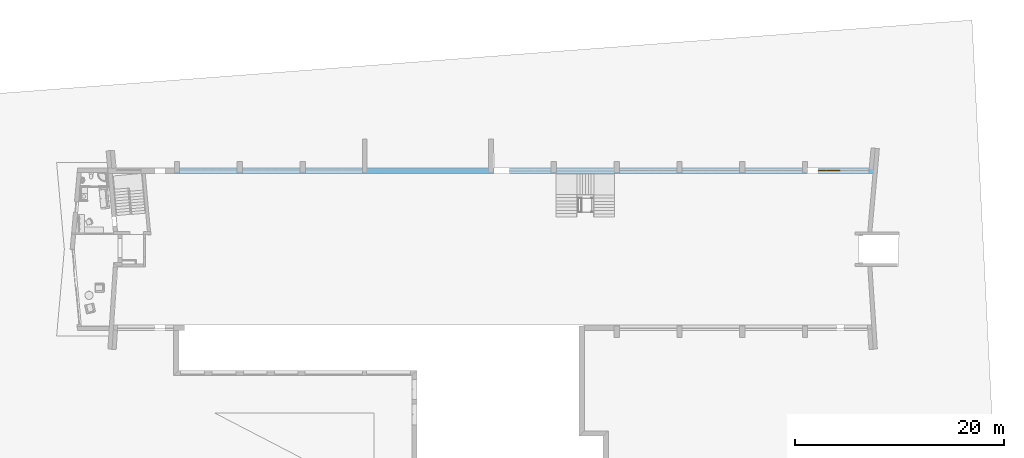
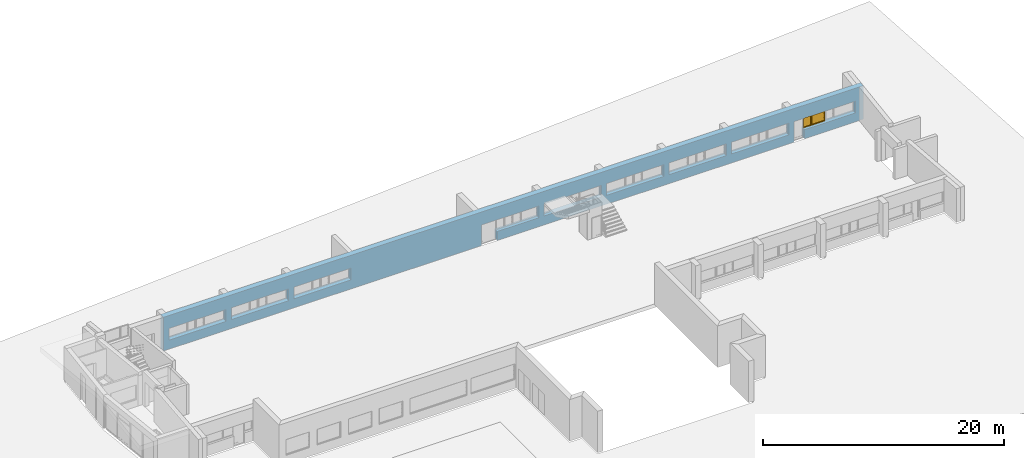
# One storey, part 25 of 36: 1 window, 20 openings, plus 1 element that does not belong to this part.
"""IFC2X3 building model written with IfcOpenShell, lengths in millimetres."""

from ifc_helpers import new_model, entity, si_unit, converted_unit, money_unit, direction, frame, origin_with_axes, place, context, subcontext, project, spatial, polyline, outline, extrude, open_shell, faceted_brep, surface_model, material, material_list, layer, layer_set, layer_usage, type_object, element, fill, save


model = new_model("IFC2X3")

# Units and contexts
model_context = context("Model", 3, precision=1e-05, world=origin_with_axes(), true_north=direction((0.0, 1.0)))
body_context = subcontext(model_context, "Body", "Model", "MODEL_VIEW")
ifc_project = project(units=[si_unit("LENGTHUNIT", "METRE", prefix="MILLI"), si_unit("AREAUNIT", "SQUARE_METRE"), si_unit("VOLUMEUNIT", "CUBIC_METRE"), converted_unit("PLANEANGLEUNIT", "DEGREE", entity("IfcPlaneAngleMeasure", 0.0174532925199), si_unit("PLANEANGLEUNIT", "RADIAN"), dimensions=[0, 0, 0, 0, 0, 0, 0]), si_unit("SOLIDANGLEUNIT", "STERADIAN"), money_unit("USD"), converted_unit("TIMEUNIT", "Year", entity("IfcTimeMeasure", 31556926.0), si_unit("TIMEUNIT", "SECOND"), dimensions=[0, 0, 0, 0, 0, 0, 0]), si_unit("MASSUNIT", "GRAM"), si_unit("THERMODYNAMICTEMPERATUREUNIT", "DEGREE_CELSIUS"), si_unit("LUMINOUSINTENSITYUNIT", "LUMEN")], contexts=[model_context])

# Site, building, storey
site_placement = place(None, origin_with_axes())
site = spatial("IfcSite", under=ifc_project, at=site_placement, Name="Site", CompositionType="ELEMENT")
building_placement = place(site_placement, origin_with_axes())
building = spatial("IfcBuilding", under=site, at=building_placement, Name="Building", CompositionType="ELEMENT")
storey_placement = place(building_placement, frame((0.0, 0.0, -3400.0), z_axis=(0.0, 0.0, 1.0), x_axis=(1.0, 0.0, 0.0)))
storey = spatial("IfcBuildingStorey", under=building, at=storey_placement, Name="1KORRUS", CompositionType="ELEMENT", Elevation=-3400.0)

# Wall, openings, window
ifc_material_1 = material(Name="Olemasolevad seinad tellis, uus viimistlus")
ifc_layer = layer(ifc_material_1, 500.0, ventilated="UNKNOWN")
ifc_layer_set = layer_set([ifc_layer], Name="Olemasolevad seinad tellis, uus viimistlus 500")
ifc_layer_usage = layer_usage(ifc_layer_set, "AXIS2", "POSITIVE", -100.0)
wall_type = type_object("IfcWallType", Name="Olemasolevad seinad tellis, uus viimistlus 500", PredefinedType="NOTDEFINED")
wall_placement = place(storey_placement, frame((-48393.8274049, -5039.6041088, 0.0), z_axis=(0.0, 0.0, 1.0), x_axis=(1.0, 0.0, 0.0)))
wall = element("IfcWallStandardCase", 1, at=wall_placement, inside=storey, type_object=wall_type, material=ifc_layer_usage, Name="VS1", ObjectType="VS1", context=body_context, shape_type="SweptSolid", body=[
    extrude(outline(polyline([(0.0, -100.0), (67149.8194303, -100.0), (67149.8194303, 400.0), (0.0, 400.0), (0.0, -100.0)])), origin_with_axes(), (0.0, 0.0, 1.0), 3400.0),
])
opening_1_placement = place(wall_placement, frame((1878.53070154, 0.0, 900.0), z_axis=(0.0, 0.0, 1.0), x_axis=(1.0, 0.0, 0.0)))
element("IfcOpeningElement", 2, at=opening_1_placement, cuts=wall, Name="Olemasolevad aknad jäävad", context=body_context, shape_type="SweptSolid", body=[
    extrude(outline(polyline([(-1375.0, 1200.0), (-1375.0, 0.0), (1375.0, 0.0), (1375.0, 1200.0), (-1375.0, 1200.0)])), frame((0.0, 250.0, 0.0), z_axis=(0.0, -1.0, 0.0), x_axis=(1.0, 0.0, 0.0)), (0.0, 0.0, 1.0), 850.0),
    extrude(outline(polyline([(-1375.0, 0.0), (-1375.0, -1200.0), (1375.0, -1200.0), (1375.0, 0.0), (-1375.0, 0.0)])), frame((0.0, 250.0, 0.0), z_axis=(0.0, 1.0, 0.0), x_axis=(1.0, 0.0, 0.0)), (0.0, 0.0, 1.0), 650.0),
])
opening_2_placement = place(wall_placement, frame((7878.53070154, 0.0, 900.0), z_axis=(0.0, 0.0, 1.0), x_axis=(1.0, 0.0, 0.0)))
element("IfcOpeningElement", 3, at=opening_2_placement, cuts=wall, Name="Olemasolevad aknad jäävad", context=body_context, shape_type="SweptSolid", body=[
    extrude(outline(polyline([(-1375.0, 1200.0), (-1375.0, 0.0), (1375.0, 0.0), (1375.0, 1200.0), (-1375.0, 1200.0)])), frame((0.0, 250.0, 0.0), z_axis=(0.0, -1.0, 0.0), x_axis=(1.0, 0.0, 0.0)), (0.0, 0.0, 1.0), 850.0),
    extrude(outline(polyline([(-1375.0, 0.0), (-1375.0, -1200.0), (1375.0, -1200.0), (1375.0, 0.0), (-1375.0, 0.0)])), frame((0.0, 250.0, 0.0), z_axis=(0.0, 1.0, 0.0), x_axis=(1.0, 0.0, 0.0)), (0.0, 0.0, 1.0), 650.0),
])
opening_3_placement = place(wall_placement, frame((13878.5307015, 0.0, 900.0), z_axis=(0.0, 0.0, 1.0), x_axis=(1.0, 0.0, 0.0)))
element("IfcOpeningElement", 4, at=opening_3_placement, cuts=wall, Name="Olemasolevad aknad jäävad", context=body_context, shape_type="SweptSolid", body=[
    extrude(outline(polyline([(-1375.0, 1200.0), (-1375.0, 0.0), (1375.0, 0.0), (1375.0, 1200.0), (-1375.0, 1200.0)])), frame((0.0, 250.0, 0.0), z_axis=(0.0, -1.0, 0.0), x_axis=(1.0, 0.0, 0.0)), (0.0, 0.0, 1.0), 850.0),
    extrude(outline(polyline([(-1375.0, 0.0), (-1375.0, -1200.0), (1375.0, -1200.0), (1375.0, 0.0), (-1375.0, 0.0)])), frame((0.0, 250.0, 0.0), z_axis=(0.0, 1.0, 0.0), x_axis=(1.0, 0.0, 0.0)), (0.0, 0.0, 1.0), 650.0),
])
opening_4_placement = place(wall_placement, frame((4628.53070154, 0.0, 900.0), z_axis=(0.0, 0.0, 1.0), x_axis=(1.0, 0.0, 0.0)))
element("IfcOpeningElement", 5, at=opening_4_placement, cuts=wall, Name="Olemasolevad aknad jäävad", context=body_context, shape_type="SweptSolid", body=[
    extrude(outline(polyline([(1375.0, 1200.0), (-1375.0, 1200.0), (-1375.0, 0.0), (1375.0, 0.0), (1375.0, 1200.0)])), frame((0.0, 250.0, 0.0), z_axis=(0.0, -1.0, 0.0), x_axis=(1.0, 0.0, 0.0)), (0.0, 0.0, 1.0), 850.0),
    extrude(outline(polyline([(1375.0, 0.0), (-1375.0, 0.0), (-1375.0, -1200.0), (1375.0, -1200.0), (1375.0, 0.0)])), frame((0.0, 250.0, 0.0), z_axis=(0.0, 1.0, 0.0), x_axis=(1.0, 0.0, 0.0)), (0.0, 0.0, 1.0), 650.0),
])
opening_5_placement = place(wall_placement, frame((10628.5307015, 0.0, 900.0), z_axis=(0.0, 0.0, 1.0), x_axis=(1.0, 0.0, 0.0)))
element("IfcOpeningElement", 6, at=opening_5_placement, cuts=wall, Name="Olemasolevad aknad jäävad", context=body_context, shape_type="SweptSolid", body=[
    extrude(outline(polyline([(1375.0, 1200.0), (-1375.0, 1200.0), (-1375.0, 0.0), (1375.0, 0.0), (1375.0, 1200.0)])), frame((0.0, 250.0, 0.0), z_axis=(0.0, -1.0, 0.0), x_axis=(1.0, 0.0, 0.0)), (0.0, 0.0, 1.0), 850.0),
    extrude(outline(polyline([(1375.0, 0.0), (-1375.0, 0.0), (-1375.0, -1200.0), (1375.0, -1200.0), (1375.0, 0.0)])), frame((0.0, 250.0, 0.0), z_axis=(0.0, 1.0, 0.0), x_axis=(1.0, 0.0, 0.0)), (0.0, 0.0, 1.0), 650.0),
])
opening_6_placement = place(wall_placement, frame((16616.9651775, 0.0, 900.0), z_axis=(0.0, 0.0, 1.0), x_axis=(1.0, 0.0, 0.0)))
element("IfcOpeningElement", 7, at=opening_6_placement, cuts=wall, Name="Olemasolevad aknad jäävad", context=body_context, shape_type="SweptSolid", body=[
    extrude(outline(polyline([(1375.0, 1200.0), (-1375.0, 1200.0), (-1375.0, 0.0), (1375.0, 0.0), (1375.0, 1200.0)])), frame((0.0, 250.0, 0.0), z_axis=(0.0, -1.0, 0.0), x_axis=(1.0, 0.0, 0.0)), (0.0, 0.0, 1.0), 850.0),
    extrude(outline(polyline([(1375.0, 0.0), (-1375.0, 0.0), (-1375.0, -1200.0), (1375.0, -1200.0), (1375.0, 0.0)])), frame((0.0, 250.0, 0.0), z_axis=(0.0, 1.0, 0.0), x_axis=(1.0, 0.0, 0.0)), (0.0, 0.0, 1.0), 650.0),
])
opening_7_placement = place(wall_placement, frame((34803.5307015, 0.0, 900.0), z_axis=(0.0, 0.0, 1.0), x_axis=(1.0, 0.0, 0.0)))
element("IfcOpeningElement", 8, at=opening_7_placement, cuts=wall, Name="Olemasolevad aknad jäävad", context=body_context, shape_type="SweptSolid", body=[
    extrude(outline(polyline([(1200.0, 0.0), (-1200.0, 0.0), (-1200.0, -1200.0), (1200.0, -1200.0), (1200.0, 0.0)])), frame((0.0, 100.0, 0.0), z_axis=(0.0, 1.0, 0.0), x_axis=(1.0, 0.0, 0.0)), (0.0, 0.0, 1.0), 800.0),
    extrude(outline(polyline([(1200.0, 1200.0), (-1200.0, 1200.0), (-1200.0, 0.0), (1200.0, 0.0), (1200.0, 1200.0)])), frame((0.0, 100.0, 0.0), z_axis=(0.0, -1.0, 0.0), x_axis=(1.0, 0.0, 0.0)), (0.0, 0.0, 1.0), 700.0),
])
opening_8_placement = place(wall_placement, frame((40625.1633636, 0.0, 900.0), z_axis=(0.0, 0.0, 1.0), x_axis=(1.0, 0.0, 0.0)))
element("IfcOpeningElement", 9, at=opening_8_placement, cuts=wall, Name="Olemasolevad aknad jäävad", context=body_context, shape_type="SweptSolid", body=[
    extrude(outline(polyline([(1400.0, 0.0), (-1400.0, 0.0), (-1400.0, -1200.0), (1400.0, -1200.0), (1400.0, 0.0)])), frame((0.0, 100.0, 0.0), z_axis=(0.0, 1.0, 0.0), x_axis=(1.0, 0.0, 0.0)), (0.0, 0.0, 1.0), 800.0),
    extrude(outline(polyline([(1400.0, 1200.0), (-1400.0, 1200.0), (-1400.0, 0.0), (1400.0, 0.0), (1400.0, 1200.0)])), frame((0.0, 100.0, 0.0), z_axis=(0.0, -1.0, 0.0), x_axis=(1.0, 0.0, 0.0)), (0.0, 0.0, 1.0), 700.0),
])
opening_9_placement = place(wall_placement, frame((37871.3218818, 0.0, 900.0), z_axis=(0.0, 0.0, 1.0), x_axis=(1.0, 0.0, 0.0)))
element("IfcOpeningElement", 10, at=opening_9_placement, cuts=wall, Name="Olemasolevad aknad jäävad", context=body_context, shape_type="SweptSolid", body=[
    extrude(outline(polyline([(-1367.791, 0.0), (-1367.791, -1200.0), (1367.791, -1200.0), (1367.791, 0.0), (-1367.791, 0.0)])), frame((0.0, 150.0, 0.0), z_axis=(0.0, 1.0, 0.0), x_axis=(1.0, 0.0, 0.0)), (0.0, 0.0, 1.0), 750.0),
    extrude(outline(polyline([(-1367.791, 1200.0), (-1367.791, 0.0), (1367.791, 0.0), (1367.791, 1200.0), (-1367.791, 1200.0)])), frame((0.0, 150.0, 0.0), z_axis=(0.0, -1.0, 0.0), x_axis=(1.0, 0.0, 0.0)), (0.0, 0.0, 1.0), 750.0),
])
opening_10_placement = place(wall_placement, frame((46628.5307015, 0.0, 900.0), z_axis=(0.0, 0.0, 1.0), x_axis=(1.0, 0.0, 0.0)))
element("IfcOpeningElement", 11, at=opening_10_placement, cuts=wall, Name="Olemasolevad aknad jäävad", context=body_context, shape_type="SweptSolid", body=[
    extrude(outline(polyline([(1375.0, 1200.0), (-1375.0, 1200.0), (-1375.0, 0.0), (1375.0, 0.0), (1375.0, 1200.0)])), frame((0.0, 150.0, 0.0), z_axis=(0.0, -1.0, 0.0), x_axis=(1.0, 0.0, 0.0)), (0.0, 0.0, 1.0), 750.0),
    extrude(outline(polyline([(1375.0, 0.0), (-1375.0, 0.0), (-1375.0, -1200.0), (1375.0, -1200.0), (1375.0, 0.0)])), frame((0.0, 150.0, 0.0), z_axis=(0.0, 1.0, 0.0), x_axis=(1.0, 0.0, 0.0)), (0.0, 0.0, 1.0), 750.0),
])
opening_11_placement = place(wall_placement, frame((43878.5307015, 0.0, 900.0), z_axis=(0.0, 0.0, 1.0), x_axis=(1.0, 0.0, 0.0)))
element("IfcOpeningElement", 12, at=opening_11_placement, cuts=wall, Name="Olemasolevad aknad jäävad", context=body_context, shape_type="SweptSolid", body=[
    extrude(outline(polyline([(-1375.0, 1200.0), (-1375.0, 0.0), (1375.0, 0.0), (1375.0, 1200.0), (-1375.0, 1200.0)])), frame((0.0, 200.0, 0.0), z_axis=(0.0, -1.0, 0.0), x_axis=(1.0, 0.0, 0.0)), (0.0, 0.0, 1.0), 800.0),
    extrude(outline(polyline([(-1375.0, 0.0), (-1375.0, -1200.0), (1375.0, -1200.0), (1375.0, 0.0), (-1375.0, 0.0)])), frame((0.0, 200.0, 0.0), z_axis=(0.0, 1.0, 0.0), x_axis=(1.0, 0.0, 0.0)), (0.0, 0.0, 1.0), 700.0),
])
opening_12_placement = place(wall_placement, frame((52635.3834465, 0.0, 900.0), z_axis=(0.0, 0.0, 1.0), x_axis=(1.0, 0.0, 0.0)))
element("IfcOpeningElement", 13, at=opening_12_placement, cuts=wall, Name="Olemasolevad aknad jäävad", context=body_context, shape_type="SweptSolid", body=[
    extrude(outline(polyline([(1376.809, 1200.0), (-1376.809, 1200.0), (-1376.809, 0.0), (1376.809, 0.0), (1376.809, 1200.0)])), frame((0.0, 150.0, 0.0), z_axis=(0.0, -1.0, 0.0), x_axis=(1.0, 0.0, 0.0)), (0.0, 0.0, 1.0), 750.0),
    extrude(outline(polyline([(1376.809, 0.0), (-1376.809, 0.0), (-1376.809, -1200.0), (1376.809, -1200.0), (1376.809, 0.0)])), frame((0.0, 150.0, 0.0), z_axis=(0.0, 1.0, 0.0), x_axis=(1.0, 0.0, 0.0)), (0.0, 0.0, 1.0), 750.0),
])
opening_13_placement = place(wall_placement, frame((49883.9987013, 0.0, 900.0), z_axis=(0.0, 0.0, 1.0), x_axis=(1.0, 0.0, 0.0)))
element("IfcOpeningElement", 14, at=opening_13_placement, cuts=wall, Name="Olemasolevad aknad jäävad", context=body_context, shape_type="SweptSolid", body=[
    extrude(outline(polyline([(-1375.0, 1200.0), (-1375.0, 0.0), (1375.0, 0.0), (1375.0, 1200.0), (-1375.0, 1200.0)])), frame((0.0, 200.0, 0.0), z_axis=(0.0, -1.0, 0.0), x_axis=(1.0, 0.0, 0.0)), (0.0, 0.0, 1.0), 800.0),
    extrude(outline(polyline([(-1375.0, 0.0), (-1375.0, -1200.0), (1375.0, -1200.0), (1375.0, 0.0), (-1375.0, 0.0)])), frame((0.0, 200.0, 0.0), z_axis=(0.0, 1.0, 0.0), x_axis=(1.0, 0.0, 0.0)), (0.0, 0.0, 1.0), 700.0),
])
opening_14_placement = place(wall_placement, frame((58631.8843372, 0.0, 900.0), z_axis=(0.0, 0.0, 1.0), x_axis=(1.0, 0.0, 0.0)))
element("IfcOpeningElement", 15, at=opening_14_placement, cuts=wall, Name="Olemasolevad aknad jäävad", context=body_context, shape_type="SweptSolid", body=[
    extrude(outline(polyline([(1371.646, 1200.0), (-1371.646, 1200.0), (-1371.646, 0.0), (1371.646, 0.0), (1371.646, 1200.0)])), frame((0.0, 150.0, 0.0), z_axis=(0.0, -1.0, 0.0), x_axis=(1.0, 0.0, 0.0)), (0.0, 0.0, 1.0), 750.0),
    extrude(outline(polyline([(1371.646, 0.0), (-1371.646, 0.0), (-1371.646, -1200.0), (1371.646, -1200.0), (1371.646, 0.0)])), frame((0.0, 150.0, 0.0), z_axis=(0.0, 1.0, 0.0), x_axis=(1.0, 0.0, 0.0)), (0.0, 0.0, 1.0), 750.0),
])
opening_15_placement = place(wall_placement, frame((55886.6217615, 0.0, 900.0), z_axis=(0.0, 0.0, 1.0), x_axis=(1.0, 0.0, 0.0)))
element("IfcOpeningElement", 16, at=opening_15_placement, cuts=wall, Name="Olemasolevad aknad jäävad", context=body_context, shape_type="SweptSolid", body=[
    extrude(outline(polyline([(-1375.0, 1200.0), (-1375.0, 0.0), (1375.0, 0.0), (1375.0, 1200.0), (-1375.0, 1200.0)])), frame((0.0, 200.0, 0.0), z_axis=(0.0, -1.0, 0.0), x_axis=(1.0, 0.0, 0.0)), (0.0, 0.0, 1.0), 800.0),
    extrude(outline(polyline([(-1375.0, 0.0), (-1375.0, -1200.0), (1375.0, -1200.0), (1375.0, 0.0), (-1375.0, 0.0)])), frame((0.0, 200.0, 0.0), z_axis=(0.0, 1.0, 0.0), x_axis=(1.0, 0.0, 0.0)), (0.0, 0.0, 1.0), 700.0),
])
opening_16_placement = place(wall_placement, frame((64995.2517085, 0.0, 900.0), z_axis=(0.0, 0.0, 1.0), x_axis=(1.0, 0.0, 0.0)))
element("IfcOpeningElement", 17, at=opening_16_placement, cuts=wall, Name="Olemasolevad aknad jäävad", context=body_context, shape_type="SweptSolid", body=[
    extrude(outline(polyline([(1375.0, 1200.0), (-1375.0, 1200.0), (-1375.0, 0.0), (1375.0, 0.0), (1375.0, 1200.0)])), frame((0.0, 150.0, 0.0), z_axis=(0.0, -1.0, 0.0), x_axis=(1.0, 0.0, 0.0)), (0.0, 0.0, 1.0), 750.0),
    extrude(outline(polyline([(1375.0, 0.0), (-1375.0, 0.0), (-1375.0, -1200.0), (1375.0, -1200.0), (1375.0, 0.0)])), frame((0.0, 150.0, 0.0), z_axis=(0.0, 1.0, 0.0), x_axis=(1.0, 0.0, 0.0)), (0.0, 0.0, 1.0), 750.0),
])
opening_17_placement = place(wall_placement, frame((32810.8244307, 0.0, 900.0), z_axis=(0.0, 0.0, 1.0), x_axis=(1.0, 0.0, 0.0)))
element("IfcOpeningElement", 18, at=opening_17_placement, cuts=wall, Name="Olemasolevad aknad jäävad", context=body_context, shape_type="SweptSolid", body=[
    extrude(outline(polyline([(792.706, 0.0), (-792.706, 0.0), (-792.706, -1200.0), (792.706, -1200.0), (792.706, 0.0)])), frame((0.0, 100.0, 0.0), z_axis=(0.0, 1.0, 0.0), x_axis=(1.0, 0.0, 0.0)), (0.0, 0.0, 1.0), 800.0),
    extrude(outline(polyline([(792.706, 1200.0), (-792.706, 1200.0), (-792.706, 0.0), (792.706, 0.0), (792.706, 1200.0)])), frame((0.0, 100.0, 0.0), z_axis=(0.0, -1.0, 0.0), x_axis=(1.0, 0.0, 0.0)), (0.0, 0.0, 1.0), 700.0),
])
opening_18_placement = place(wall_placement, frame((62561.891205, 0.0, 900.0), z_axis=(0.0, 0.0, 1.0), x_axis=(1.0, 0.0, 0.0)))
opening_18 = element("IfcOpeningElement", 19, at=opening_18_placement, cuts=wall, Name="Olemasolevad aknad jäävad", context=body_context, shape_type="SweptSolid", body=[
    extrude(outline(polyline([(1058.361, 1200.0), (-1058.361, 1200.0), (-1058.361, 0.0), (1058.361, 0.0), (1058.361, 1200.0)])), frame((0.0, 150.0, 0.0), z_axis=(0.0, -1.0, 0.0), x_axis=(1.0, 0.0, 0.0)), (0.0, 0.0, 1.0), 750.0),
    extrude(outline(polyline([(1058.361, 0.0), (-1058.361, 0.0), (-1058.361, -1200.0), (1058.361, -1200.0), (1058.361, 0.0)])), frame((0.0, 150.0, 0.0), z_axis=(0.0, 1.0, 0.0), x_axis=(1.0, 0.0, 0.0)), (0.0, 0.0, 1.0), 750.0),
])
opening_19_placement = place(wall_placement, frame((61003.5307015, 0.0, -4.66441168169), z_axis=(0.0, 0.0, 1.0), x_axis=(1.0, 0.0, 0.0)))
element("IfcOpeningElement", 20, at=opening_19_placement, cuts=wall, Name="ava", context=body_context, shape_type="SweptSolid", body=[
    extrude(outline(polyline([(-500.0, 2100.0), (-500.0, 0.0), (500.0, 0.0), (500.0, 2100.0), (-500.0, 2100.0)])), frame((0.0, 200.0, 0.0), z_axis=(0.0, 1.0, 0.0), x_axis=(-1.0, 0.0, 0.0)), (0.0, 0.0, -1.0), 800.0),
    extrude(outline(polyline([(-500.0, 0.0), (-500.0, -2100.0), (500.0, -2100.0), (500.0, 0.0), (-500.0, 0.0)])), frame((0.0, 200.0, 0.0), z_axis=(0.0, -1.0, 0.0), x_axis=(-1.0, 0.0, 0.0)), (0.0, 0.0, -1.0), 700.0),
])
opening_20_placement = place(wall_placement, frame((31268.1181599, 0.0, 0.0), z_axis=(0.0, 0.0, 1.0), x_axis=(1.0, 0.0, 0.0)))
element("IfcOpeningElement", 21, at=opening_20_placement, cuts=wall, Name="ava", context=body_context, shape_type="SweptSolid", body=[
    extrude(outline(polyline([(-750.0, 2100.0), (-750.0, 0.0), (750.0, 0.0), (750.0, 2100.0), (-750.0, 2100.0)])), frame((0.0, 200.0, 0.0), z_axis=(0.0, -1.0, 0.0), x_axis=(1.0, 0.0, 0.0)), (0.0, 0.0, 1.0), 800.0),
    extrude(outline(polyline([(-750.0, 0.0), (-750.0, -2100.0), (750.0, -2100.0), (750.0, 0.0), (-750.0, 0.0)])), frame((0.0, 200.0, 0.0), z_axis=(0.0, 1.0, 0.0), x_axis=(1.0, 0.0, 0.0)), (0.0, 0.0, 1.0), 700.0),
])
ifc_material_2 = material(Name="Background")
ifc_material_list = material_list([ifc_material_2])
window_style = type_object("IfcWindowStyle", Name="Double Window 19", ConstructionType="NOTDEFINED", OperationType="DOUBLE_PANEL_VERTICAL", ParameterTakesPrecedence=False, Sizeable=False)
window_placement = place(opening_18_placement, frame((-1058.36050347, 0.0, 0.0), z_axis=(0.0, 0.0, 1.0), x_axis=(1.0, 0.0, 0.0)))
window = element("IfcWindow", 22, at=window_placement, inside=storey, type_object=window_style, material=ifc_material_list, Name="Olemasolevad aknad jäävad", ObjectType="Olemasolevad aknad jäävad", OverallHeight=1200.0, OverallWidth=2116.72, context=body_context, shape_type="SurfaceModel", body=[
    faceted_brep([(2091.721, 200.0, 1150.0), (2091.721, 175.0, 1150.0), (2066.721, 175.0, 1150.0), (2066.721, 150.0, 1150.0), (2116.721, 150.0, 1150.0), (2116.721, 200.0, 1150.0), (2091.721, 200.0, 50.0), (2091.721, 175.0, 50.0), (2066.721, 175.0, 50.0), (2066.721, 150.0, 50.0), (2116.721, 150.0, 50.0), (2116.721, 200.0, 50.0)], [[[0, 1, 2, 3, 4, 5]], [[1, 0, 6, 7]], [[8, 2, 1, 7]], [[2, 8, 9, 3]], [[4, 3, 9, 10]], [[5, 4, 10, 11]], [[6, 0, 5, 11]], [[7, 6, 11, 10, 9, 8]]]),
    faceted_brep([(49.999999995, 175.0, 1150.0), (24.999999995, 175.0, 1150.0), (24.999999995, 200.0, 1150.0), (-4.99333907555e-09, 200.0, 1150.0), (-4.99333907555e-09, 150.0, 1150.0), (49.999999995, 150.0, 1150.0), (49.999999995, 175.0, 50.0), (24.999999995, 175.0, 50.0), (24.999999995, 200.0, 50.0), (-4.99333907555e-09, 200.0, 50.0), (-4.99333907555e-09, 150.0, 50.0), (49.999999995, 150.0, 50.0)], [[[0, 1, 2, 3, 4, 5]], [[1, 0, 6, 7]], [[8, 2, 1, 7]], [[2, 8, 9, 3]], [[9, 10, 4, 3]], [[10, 11, 5, 4]], [[6, 0, 5, 11]], [[7, 6, 11, 10, 9, 8]]]),
    faceted_brep([(849.999999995, 175.0, 1150.0), (824.999999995, 175.0, 1150.0), (824.999999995, 200.0, 1150.0), (774.999999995, 200.0, 1150.0), (774.999999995, 175.0, 1150.0), (749.999999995, 175.0, 1150.0), (749.999999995, 150.0, 1150.0), (849.999999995, 150.0, 1150.0), (849.999999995, 175.0, 50.0), (824.999999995, 175.0, 50.0), (824.999999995, 200.0, 50.0), (774.999999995, 200.0, 50.0), (774.999999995, 175.0, 50.0), (749.999999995, 175.0, 50.0), (749.999999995, 150.0, 50.0), (849.999999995, 150.0, 50.0)], [[[0, 1, 2, 3, 4, 5, 6, 7]], [[1, 0, 8, 9]], [[10, 2, 1, 9]], [[2, 10, 11, 3]], [[4, 3, 11, 12]], [[13, 5, 4, 12]], [[5, 13, 14, 6]], [[14, 15, 7, 6]], [[8, 0, 7, 15]], [[9, 8, 15, 14, 13, 12, 11, 10]]]),
    faceted_brep([(849.999999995, 175.0, 50.0), (824.999999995, 175.0, 50.0), (824.999999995, 200.0, 50.0), (774.999999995, 200.0, 50.0), (774.999999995, 175.0, 50.0), (749.999999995, 175.0, 50.0), (749.999999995, 150.0, 50.0), (849.999999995, 150.0, 50.0), (2066.721, 175.0, 50.0), (2091.721, 175.0, 50.0), (2091.721, 175.0, 25.0), (824.999999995, 175.0, 25.0), (824.999999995, 200.0, 25.0), (2091.721, 200.0, 25.0), (2091.721, 200.0, 50.0), (2116.721, 200.0, 50.0), (2116.721, 200.0, 0.0), (-4.99333907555e-09, 200.0, 0.0), (-4.99333907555e-09, 200.0, 50.0), (24.999999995, 200.0, 50.0), (24.999999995, 200.0, 25.0), (774.999999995, 200.0, 25.0), (774.999999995, 175.0, 25.0), (24.999999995, 175.0, 50.0), (49.999999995, 175.0, 50.0), (24.999999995, 175.0, 25.0), (49.999999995, 150.0, 50.0), (2116.721, 150.0, 50.0), (2066.721, 150.0, 50.0), (-4.99333907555e-09, 150.0, 50.0), (-4.99333907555e-09, 150.0, 0.0), (2116.721, 150.0, 0.0)], [[[0, 1, 2, 3, 4, 5, 6, 7]], [[1, 0, 8, 9, 10, 11]], [[12, 2, 1, 11]], [[13, 14, 15, 16, 17, 18, 19, 20, 21, 3, 2, 12]], [[4, 3, 21, 22]], [[23, 24, 5, 4, 22, 25]], [[5, 24, 26, 6]], [[27, 28, 7, 6, 26, 29, 30, 31]], [[8, 0, 7, 28]], [[9, 8, 28, 27, 15, 14]], [[9, 14, 13, 10]], [[13, 12, 11, 10]], [[15, 27, 31, 16]], [[16, 31, 30, 17]], [[17, 30, 29, 18]], [[24, 23, 19, 18, 29, 26]], [[20, 19, 23, 25]], [[21, 20, 25, 22]]]),
    faceted_brep([(2091.721, 200.0, 1150.0), (2091.721, 200.0, 1175.0), (824.999999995, 200.0, 1175.0), (824.999999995, 200.0, 1150.0), (774.999999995, 200.0, 1150.0), (774.999999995, 200.0, 1175.0), (24.999999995, 200.0, 1175.0), (24.999999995, 200.0, 1150.0), (-4.99333907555e-09, 200.0, 1150.0), (-4.99333907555e-09, 200.0, 1200.0), (2116.721, 200.0, 1200.0), (2116.721, 200.0, 1150.0), (2091.721, 175.0, 1150.0), (2091.721, 175.0, 1175.0), (824.999999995, 175.0, 1175.0), (824.999999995, 175.0, 1150.0), (849.999999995, 175.0, 1150.0), (849.999999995, 150.0, 1150.0), (749.999999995, 150.0, 1150.0), (749.999999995, 175.0, 1150.0), (774.999999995, 175.0, 1150.0), (774.999999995, 175.0, 1175.0), (24.999999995, 175.0, 1175.0), (24.999999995, 175.0, 1150.0), (49.999999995, 175.0, 1150.0), (49.999999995, 150.0, 1150.0), (-4.99333907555e-09, 150.0, 1150.0), (-4.99333907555e-09, 150.0, 1200.0), (2116.721, 150.0, 1200.0), (2116.721, 150.0, 1150.0), (2066.721, 150.0, 1150.0), (2066.721, 175.0, 1150.0)], [[[0, 1, 2, 3, 4, 5, 6, 7, 8, 9, 10, 11]], [[1, 0, 12, 13]], [[2, 1, 13, 14]], [[3, 2, 14, 15]], [[15, 16, 17, 18, 19, 20, 4, 3]], [[5, 4, 20, 21]], [[6, 5, 21, 22]], [[7, 6, 22, 23]], [[23, 24, 25, 26, 8, 7]], [[8, 26, 27, 9]], [[9, 27, 28, 10]], [[10, 28, 29, 11]], [[12, 0, 11, 29, 30, 31]], [[16, 15, 14, 13, 12, 31]], [[16, 31, 30, 17]], [[18, 17, 30, 29, 28, 27, 26, 25]], [[24, 19, 18, 25]], [[24, 23, 22, 21, 20, 19]]]),
    faceted_brep([(2041.721, 175.0, 1125.0), (2091.721, 175.0, 1125.0), (2091.721, 225.0, 1125.0), (2041.721, 225.0, 1125.0), (2041.721, 175.0, 75.0), (2091.721, 175.0, 75.0), (2091.721, 225.0, 75.0), (2041.721, 225.0, 75.0)], [[[0, 1, 2, 3]], [[0, 4, 5, 1]], [[1, 5, 6, 2]], [[3, 2, 6, 7]], [[4, 0, 3, 7]], [[5, 4, 7, 6]]]),
    faceted_brep([(874.999999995, 175.0, 75.0), (824.999999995, 175.0, 75.0), (824.999999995, 225.0, 75.0), (874.999999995, 225.0, 75.0), (874.999999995, 175.0, 1125.0), (824.999999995, 175.0, 1125.0), (824.999999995, 225.0, 1125.0), (874.999999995, 225.0, 1125.0)], [[[0, 1, 2, 3]], [[0, 4, 5, 1]], [[1, 5, 6, 2]], [[3, 2, 6, 7]], [[4, 0, 3, 7]], [[5, 4, 7, 6]]]),
    faceted_brep([(824.999999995, 175.0, 25.0), (824.999999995, 175.0, 75.0), (824.999999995, 225.0, 75.0), (824.999999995, 225.0, 25.0), (2091.721, 175.0, 25.0), (2091.721, 175.0, 75.0), (2041.721, 175.0, 75.0), (874.999999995, 175.0, 75.0), (874.999999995, 225.0, 75.0), (2041.721, 225.0, 75.0), (2091.721, 225.0, 75.0), (2091.721, 225.0, 25.0)], [[[0, 1, 2, 3]], [[0, 4, 5, 6, 7, 1]], [[1, 7, 8, 2]], [[3, 2, 8, 9, 10, 11]], [[4, 0, 3, 11]], [[5, 4, 11, 10]], [[6, 5, 10, 9]], [[7, 6, 9, 8]]]),
    faceted_brep([(2091.721, 175.0, 1175.0), (2091.721, 175.0, 1125.0), (2091.721, 225.0, 1125.0), (2091.721, 225.0, 1175.0), (824.999999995, 175.0, 1175.0), (824.999999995, 175.0, 1125.0), (874.999999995, 175.0, 1125.0), (2041.721, 175.0, 1125.0), (2041.721, 225.0, 1125.0), (874.999999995, 225.0, 1125.0), (824.999999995, 225.0, 1125.0), (824.999999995, 225.0, 1175.0)], [[[0, 1, 2, 3]], [[0, 4, 5, 6, 7, 1]], [[1, 7, 8, 2]], [[3, 2, 8, 9, 10, 11]], [[4, 0, 3, 11]], [[5, 4, 11, 10]], [[6, 5, 10, 9]], [[7, 6, 9, 8]]]),
    surface_model("IfcShellBasedSurfaceModel", [(2041.721, 190.0, 75.0), (2041.721, 190.0, 1125.0), (874.999999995, 190.0, 1125.0), (874.999999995, 190.0, 75.0)], [open_shell([[[0, 1, 2, 3]]])]),
    surface_model("IfcShellBasedSurfaceModel", [(2041.721, 210.0, 75.0), (874.999999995, 210.0, 75.0), (874.999999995, 210.0, 1125.0), (2041.721, 210.0, 1125.0)], [open_shell([[[0, 1, 2, 3]]])]),
    faceted_brep([(724.999999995, 175.0, 1125.0), (774.999999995, 175.0, 1125.0), (774.999999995, 225.0, 1125.0), (724.999999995, 225.0, 1125.0), (724.999999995, 175.0, 75.0), (774.999999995, 175.0, 75.0), (774.999999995, 225.0, 75.0), (724.999999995, 225.0, 75.0)], [[[0, 1, 2, 3]], [[0, 4, 5, 1]], [[1, 5, 6, 2]], [[3, 2, 6, 7]], [[4, 0, 3, 7]], [[5, 4, 7, 6]]]),
    faceted_brep([(74.999999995, 175.0, 75.0), (24.999999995, 175.0, 75.0), (24.999999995, 225.0, 75.0), (74.999999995, 225.0, 75.0), (74.999999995, 175.0, 1125.0), (24.999999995, 175.0, 1125.0), (24.999999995, 225.0, 1125.0), (74.999999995, 225.0, 1125.0)], [[[0, 1, 2, 3]], [[0, 4, 5, 1]], [[1, 5, 6, 2]], [[3, 2, 6, 7]], [[4, 0, 3, 7]], [[5, 4, 7, 6]]]),
    faceted_brep([(24.999999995, 175.0, 25.0), (24.999999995, 175.0, 75.0), (24.999999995, 225.0, 75.0), (24.999999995, 225.0, 25.0), (774.999999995, 175.0, 25.0), (774.999999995, 175.0, 75.0), (724.999999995, 175.0, 75.0), (74.999999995, 175.0, 75.0), (74.999999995, 225.0, 75.0), (724.999999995, 225.0, 75.0), (774.999999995, 225.0, 75.0), (774.999999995, 225.0, 25.0)], [[[0, 1, 2, 3]], [[0, 4, 5, 6, 7, 1]], [[1, 7, 8, 2]], [[3, 2, 8, 9, 10, 11]], [[4, 0, 3, 11]], [[5, 4, 11, 10]], [[6, 5, 10, 9]], [[7, 6, 9, 8]]]),
    faceted_brep([(774.999999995, 175.0, 1175.0), (774.999999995, 175.0, 1125.0), (774.999999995, 225.0, 1125.0), (774.999999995, 225.0, 1175.0), (24.999999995, 175.0, 1175.0), (24.999999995, 175.0, 1125.0), (74.999999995, 175.0, 1125.0), (724.999999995, 175.0, 1125.0), (724.999999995, 225.0, 1125.0), (74.999999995, 225.0, 1125.0), (24.999999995, 225.0, 1125.0), (24.999999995, 225.0, 1175.0)], [[[0, 1, 2, 3]], [[0, 4, 5, 6, 7, 1]], [[1, 7, 8, 2]], [[3, 2, 8, 9, 10, 11]], [[4, 0, 3, 11]], [[5, 4, 11, 10]], [[6, 5, 10, 9]], [[7, 6, 9, 8]]]),
    surface_model("IfcShellBasedSurfaceModel", [(724.999999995, 190.0, 75.0), (724.999999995, 190.0, 1125.0), (74.999999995, 190.0, 1125.0), (74.999999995, 190.0, 75.0)], [open_shell([[[0, 1, 2, 3]]])]),
    surface_model("IfcShellBasedSurfaceModel", [(724.999999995, 210.0, 75.0), (74.999999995, 210.0, 75.0), (74.999999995, 210.0, 1125.0), (724.999999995, 210.0, 1125.0)], [open_shell([[[0, 1, 2, 3]]])]),
])
fill(opening_18, window)

save(model, "model.ifc")
